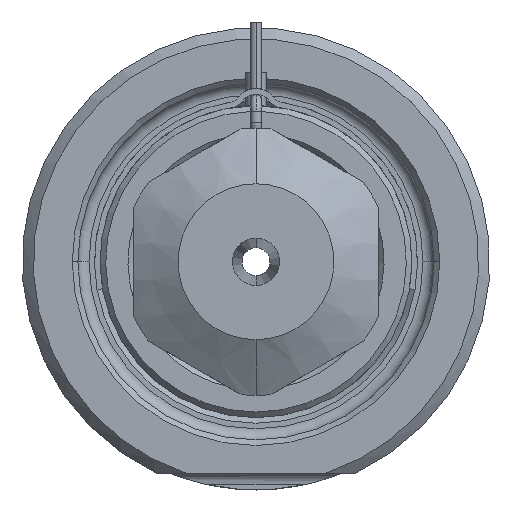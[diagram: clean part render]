
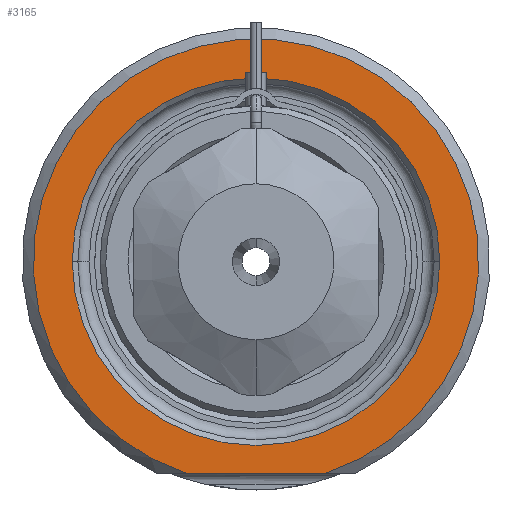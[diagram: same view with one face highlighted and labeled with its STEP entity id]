
A CAD part, front view. The second image highlights one B-rep face of the part: STEP entity #3165.
In plain terms, the highlighted planar face has unit normal (0, -1, 0).
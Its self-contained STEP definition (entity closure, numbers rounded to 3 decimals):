
#1=DIRECTION('',(1.,0.,0.));
#2=VECTOR('',#1,12.49);
#3=CARTESIAN_POINT('',(-6.245,0.,-19.));
#4=LINE('',#3,#2);
#5=CARTESIAN_POINT('',(0.,0.,0.));
#6=DIRECTION('',(0.,1.,0.));
#7=DIRECTION('',(-1.,0.,0.));
#8=AXIS2_PLACEMENT_3D('',#5,#6,#7);
#10=CARTESIAN_POINT('',(0.,0.,0.));
#11=DIRECTION('',(0.,1.,0.));
#12=DIRECTION('',(1.,0.,0.));
#13=AXIS2_PLACEMENT_3D('',#10,#11,#12);
#119=CARTESIAN_POINT('',(0.,0.,0.));
#120=DIRECTION('',(0.,-1.,0.));
#121=DIRECTION('',(0.312,0.,-0.95));
#122=AXIS2_PLACEMENT_3D('',#119,#120,#121);
#2624=CARTESIAN_POINT('',(-16.5,0.,0.));
#2625=CARTESIAN_POINT('',(16.5,0.,0.));
#2626=VERTEX_POINT('',#2624);
#2627=VERTEX_POINT('',#2625);
#2678=CARTESIAN_POINT('',(-6.245,0.,-19.));
#2679=CARTESIAN_POINT('',(6.245,0.,-19.));
#2680=VERTEX_POINT('',#2678);
#2681=VERTEX_POINT('',#2679);
#3148=CARTESIAN_POINT('',(0.,0.,0.));
#3149=DIRECTION('',(0.,-1.,0.));
#3150=DIRECTION('',(1.,0.,0.));
#3151=AXIS2_PLACEMENT_3D('',#3148,#3149,#3150);
#3152=PLANE('',#3151);
#3154=ORIENTED_EDGE('',*,*,#3153,.F.);
#3156=ORIENTED_EDGE('',*,*,#3155,.F.);
#3157=EDGE_LOOP('',(#3154,#3156));
#3158=FACE_OUTER_BOUND('',#3157,.F.);
#3160=ORIENTED_EDGE('',*,*,#3159,.F.);
#3162=ORIENTED_EDGE('',*,*,#3161,.F.);
#3163=EDGE_LOOP('',(#3160,#3162));
#3164=FACE_BOUND('',#3163,.F.);
#3165=ADVANCED_FACE('',(#3158,#3164),#3152,.T.);
#9=CIRCLE('',#8,16.5);
#14=CIRCLE('',#13,16.5);
#123=CIRCLE('',#122,20.);
#3153=EDGE_CURVE('',#2680,#2681,#4,.T.);
#3155=EDGE_CURVE('',#2681,#2680,#123,.T.);
#3159=EDGE_CURVE('',#2626,#2627,#9,.T.);
#3161=EDGE_CURVE('',#2627,#2626,#14,.T.);
